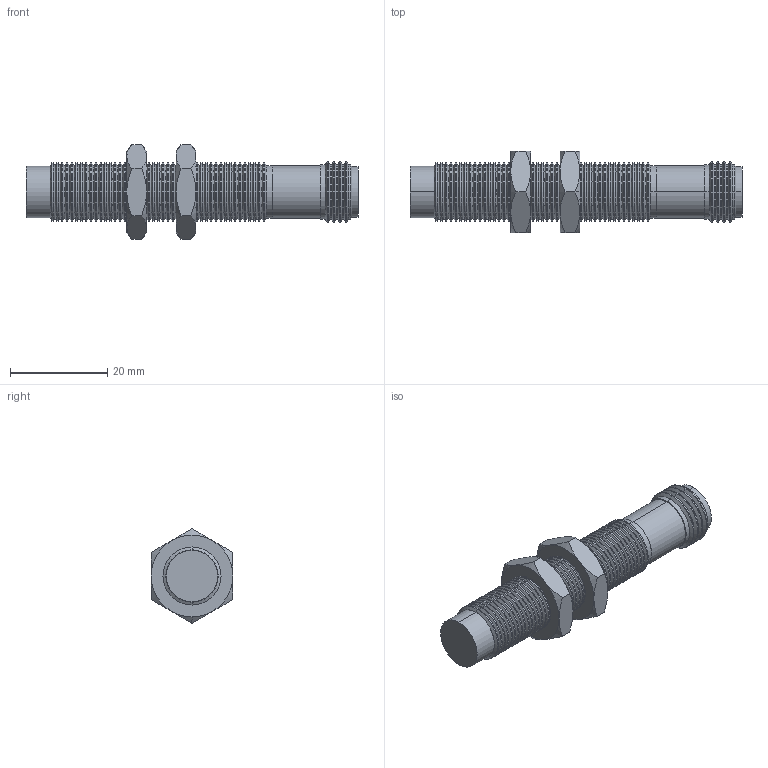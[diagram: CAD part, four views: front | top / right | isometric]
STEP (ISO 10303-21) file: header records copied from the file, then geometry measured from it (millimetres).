
FILE_DESCRIPTION (( 'STEP AP203' ), '1' );
FILE_NAME ('90-XXXX-012.STEP', '2015-10-28T13:12:08', ( 'Sam' ), ( 'Spade' ), 'SwSTEP 2.0', 'SolidWorks 2002296', '' );
FILE_SCHEMA (( 'CONFIG_CONTROL_DESIGN' ));
Length unit declared in the file: inch
Products named in the file (9): 90-XXXX-012; Imported116; Imported115; Imported118; Imported117; Imported113; Imported112; Imported114; Imported111
Assembly tree (8 placements, depth 2):
  90-XXXX-012
    Imported112
    Imported115
    Imported117
    Imported113
    Imported114
    Imported118
    Imported111
    Imported116
Bounding box: 68.45 x 16.87 x 19.47 mm (x, y, z)
Volume: 7628.9 mm3; surface area: 6059.3 mm2
Topology: 8 solids, 8 shells, 442 faces, 899 edges, 475 vertices
Faces by surface type: cone 264, cylinder 135, plane 37, bspline 6
Entity records: 12382 total; most frequent: DIRECTION 2185, CARTESIAN_POINT 2103, ORIENTED_EDGE 1786, EDGE_CURVE 893, AXIS2_PLACEMENT_3D 893, VERTEX_POINT 475, EDGE_LOOP 454, CIRCLE 446
